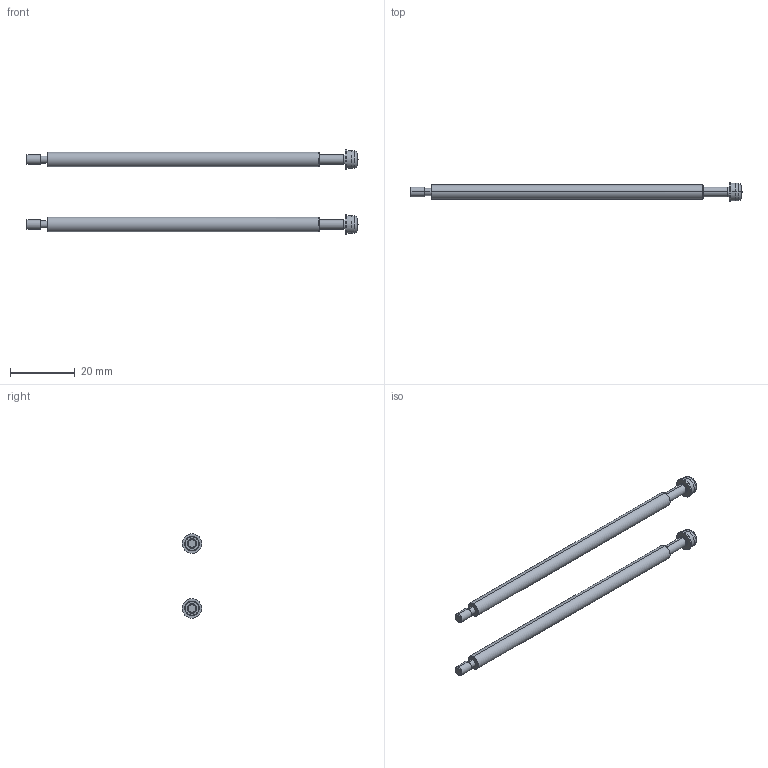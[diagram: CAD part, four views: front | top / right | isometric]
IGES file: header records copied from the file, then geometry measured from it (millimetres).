
Start section: ------------------------------------------------------------------------
Bounding box: 102.4 x 5.99 x 26 mm (x, y, z)
Volume: 2940.4 mm3; surface area: 3241.3 mm2
Topology: 4 solids, 4 shells, 94 faces, 188 edges, 108 vertices
Faces by surface type: bspline 94
